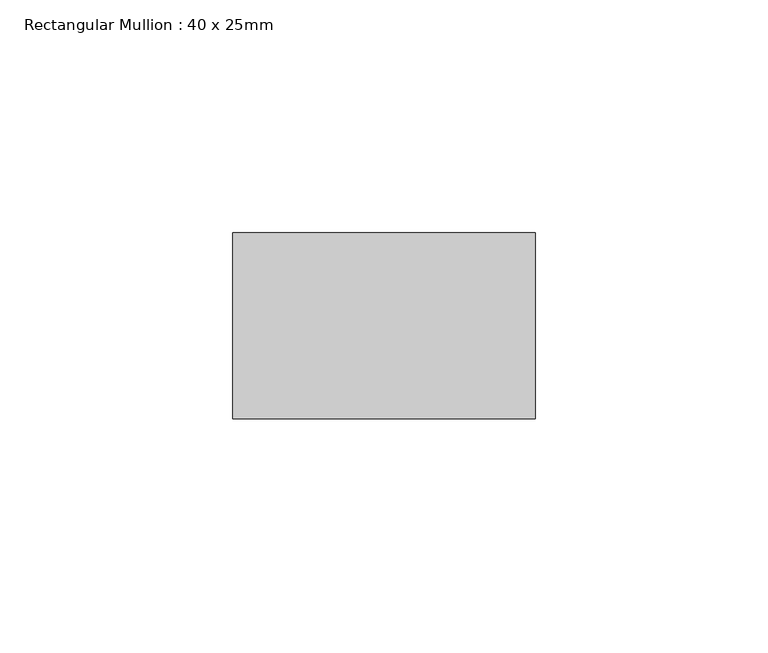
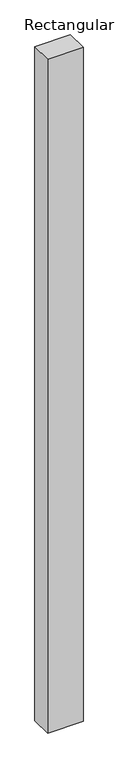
"""IFC4 building model written with IfcOpenShell, lengths in millimetres: member geometry, Rectangular Mullion : 40 x 25mm."""

import ifcopenshell
import ifcopenshell.guid

model = None  # the IFC model being written
_history = None  # IfcOwnerHistory: only IFC2X3 demands one
_inside = {}  # id of a spatial element -> (the spatial element, [elements in it])
_under = {}  # id of a project, library or spatial element -> (it, [spatial elements below it])
_declared = {}  # id of a project -> (the project, [libraries it declares])
_typed = {}  # id of a type object -> (the type object, [elements of that type])
_made_of = {}  # id of a material, layer set ... -> (it, [elements and type objects made of it])


def new_model(schema):
    """Start an empty IFC model of exactly this schema.

    Asked for "IFC4X3", IfcOpenShell would pick the latest addendum, in which some entities
    have other attributes; the version numbers below select the first issue.
    IFC2X3 requires an IfcOwnerHistory on every rooted entity: one is made here for all.
    """
    global model, _history
    if schema == "IFC4X3":
        model = ifcopenshell.file(schema_version=(4, 3, 0, 0))
    else:
        model = ifcopenshell.file(schema=schema)
    _inside.clear()
    _under.clear()
    _declared.clear()
    _typed.clear()
    _made_of.clear()
    _history = None
    if model.schema == "IFC2X3":
        org = make("IfcOrganization", Name="unknown")
        user = make(
            "IfcPersonAndOrganization",
            ThePerson=make("IfcPerson", FamilyName="unknown"),
            TheOrganization=org,
        )
        app = make(
            "IfcApplication",
            ApplicationDeveloper=org,
            Version="unknown",
            ApplicationFullName="unknown",
            ApplicationIdentifier="unknown",
        )
        _history = make(
            "IfcOwnerHistory",
            OwningUser=user,
            OwningApplication=app,
            ChangeAction="ADDED",
            CreationDate=0,
        )
    return model


def make(cls, **values):
    """One entity of the class cls with the attributes given. An attribute that is None is left unset."""
    return model.create_entity(
        cls, **{name: value for name, value in values.items() if value is not None}
    )


def rooted(cls, **values):
    """An entity with a GlobalId (a new one), such as an element, a storey or a relation."""
    return make(cls, GlobalId=ifcopenshell.guid.new(), OwnerHistory=_history, **values)


def si_unit(unit_type, name, prefix=None):
    """IfcSIUnit, for example si_unit("LENGTHUNIT", "METRE", prefix="MILLI")."""
    return make("IfcSIUnit", UnitType=unit_type, Prefix=prefix, Name=name)


def assignment(units):
    """IfcUnitAssignment: the units of a project."""
    return None if units is None else make("IfcUnitAssignment", Units=units)


def point(xyz):
    """IfcCartesianPoint."""
    return None if xyz is None else make("IfcCartesianPoint", Coordinates=xyz)


def direction(xyz):
    """IfcDirection."""
    return None if xyz is None else make("IfcDirection", DirectionRatios=xyz)


def frame(location, z_axis=None, x_axis=None):
    """IfcAxis2Placement3D, a coordinate frame: its origin and axes. An axis left out is left unset."""
    return make(
        "IfcAxis2Placement3D",
        Location=point(location),
        Axis=direction(z_axis),
        RefDirection=direction(x_axis),
    )


def origin():
    """The frame at (0, 0, 0) with its axes left unset."""
    return frame((0.0, 0.0, 0.0))


def place(relative_to, where):
    """IfcLocalPlacement: puts the frame where relative to a parent placement (None: the world)."""
    return make(
        "IfcLocalPlacement", PlacementRelTo=relative_to, RelativePlacement=where
    )


def context(
    kind, dimensions, precision=None, world=None, true_north=None, identifier=None
):
    """IfcGeometricRepresentationContext, for example the 3D "Model" context."""
    return make(
        "IfcGeometricRepresentationContext",
        ContextIdentifier=identifier,
        ContextType=kind,
        CoordinateSpaceDimension=dimensions,
        Precision=precision,
        WorldCoordinateSystem=world,
        TrueNorth=true_north,
    )


def project(units=None, contexts=None):
    """IfcProject with its units and contexts."""
    return rooted(
        "IfcProject",
        Name="project",
        RepresentationContexts=contexts,
        UnitsInContext=assignment(units),
    )


def spatial(cls, under=None, at=None, **own):
    """A site, building, storey or space (cls), placed at a placement, below another one or the project."""
    s = rooted(cls, ObjectPlacement=at, **own)
    if under is not None:
        _under.setdefault(under.id(), (under, []))[1].append(s)
    return s


def polyline(points):
    """IfcPolyline through the points."""
    return make("IfcPolyline", Points=[point(p) for p in points])


def outline(outer, holes=None, kind="AREA"):
    """IfcArbitraryClosedProfileDef: a profile drawn as a closed curve; with holes, ...WithVoids."""
    if holes is None:
        return make("IfcArbitraryClosedProfileDef", ProfileType=kind, OuterCurve=outer)
    return make(
        "IfcArbitraryProfileDefWithVoids",
        ProfileType=kind,
        OuterCurve=outer,
        InnerCurves=holes,
    )


def extrude(swept, where, along, depth):
    """IfcExtrudedAreaSolid: the profile swept, set in the frame where, extruded along a direction by depth."""
    return make(
        "IfcExtrudedAreaSolid",
        SweptArea=swept,
        Position=where,
        ExtrudedDirection=direction(along),
        Depth=depth,
    )


def shape(context_of_items, identifier, shape_type, items):
    """IfcShapeRepresentation: the items that make up one representation, for example the "Body"."""
    return make(
        "IfcShapeRepresentation",
        ContextOfItems=context_of_items,
        RepresentationIdentifier=identifier,
        RepresentationType=shape_type,
        Items=items,
    )


def source(mapping_origin, context_of_items, identifier, shape_type, items):
    """IfcRepresentationMap: a shape defined once, which mapped items show again and again."""
    return make(
        "IfcRepresentationMap",
        MappingOrigin=mapping_origin,
        MappedRepresentation=shape(context_of_items, identifier, shape_type, items),
    )


def transform(
    local_origin,
    x_axis=None,
    y_axis=None,
    z_axis=None,
    scale=None,
    scale2=None,
    scale3=None,
    uniform=True,
):
    """IfcCartesianTransformationOperator3D, or its non-uniform kind. x_axis, y_axis, z_axis: its Axis1, 2, 3."""
    if uniform:
        return make(
            "IfcCartesianTransformationOperator3D",
            Axis1=direction(x_axis),
            Axis2=direction(y_axis),
            LocalOrigin=point(local_origin),
            Scale=scale,
            Axis3=direction(z_axis),
        )
    return make(
        "IfcCartesianTransformationOperator3DnonUniform",
        Axis1=direction(x_axis),
        Axis2=direction(y_axis),
        LocalOrigin=point(local_origin),
        Scale=scale,
        Axis3=direction(z_axis),
        Scale2=scale2,
        Scale3=scale3,
    )


def mapped(mapping_source, mapping_target):
    """IfcMappedItem: shows the shape of a source again, moved by a transform."""
    return make(
        "IfcMappedItem", MappingSource=mapping_source, MappingTarget=mapping_target
    )


def made_of(thing, what):
    """Note that an element or type object is made of a material, layer set ...; save() writes the relation."""
    if what is not None:
        _made_of.setdefault(what.id(), (what, []))[1].append(thing)
    return thing


def element(
    cls,
    number,
    at=None,
    inside=None,
    cuts=None,
    type_object=None,
    material=None,
    context=None,
    identifier="Body",
    shape_type=None,
    held_by="IfcProductDefinitionShape",
    body=None,
    shapes=None,
    **own,
):
    """One element of the class cls, such as IfcWall. Its Tag is "e" and its number.

    at: its placement. inside: the storey or other place that contains it. cuts: it is an
    opening in that element (IfcRelVoidsElement). A single representation is given by context,
    identifier, shape_type and body (its items); several are given by shapes. held_by: the class
    of the entity that holds the representations. save() writes the other relations.
    """
    e = rooted(cls, Tag="e%d" % number, ObjectPlacement=at, **own)
    if body is not None:
        shapes = [shape(context, identifier, shape_type, body)]
    if shapes is not None:
        e.Representation = make(held_by, Representations=shapes)
    if inside is not None:
        _inside.setdefault(inside.id(), (inside, []))[1].append(e)
    if cuts is not None:
        rooted(
            "IfcRelVoidsElement", RelatingBuildingElement=cuts, RelatedOpeningElement=e
        )
    if type_object is not None:
        _typed.setdefault(type_object.id(), (type_object, []))[1].append(e)
    return made_of(e, material)


def aggregate(whole, parts):
    """IfcRelAggregates: a whole, such as a stair, and the parts it consists of."""
    return rooted("IfcRelAggregates", RelatingObject=whole, RelatedObjects=parts)


def save(model, path):
    """Write the relations noted so far, then the file.

    IfcRelAggregates (storeys below a building ...), IfcRelContainedInSpatialStructure (elements
    in a storey), IfcRelDefinesByType, IfcRelAssociatesMaterial and IfcRelDeclares: one each for
    every whole, place, type object, material and project.
    """
    for whole, parts in _under.values():
        aggregate(whole, parts)
    for where, things in _inside.values():
        rooted(
            "IfcRelContainedInSpatialStructure",
            RelatedElements=things,
            RelatingStructure=where,
        )
    for kind, things in _typed.values():
        rooted("IfcRelDefinesByType", RelatedObjects=things, RelatingType=kind)
    for what, things in _made_of.values():
        rooted("IfcRelAssociatesMaterial", RelatedObjects=things, RelatingMaterial=what)
    for by, libraries in _declared.values():
        rooted("IfcRelDeclares", RelatingContext=by, RelatedDefinitions=libraries)
    model.write(path)


def rectangular_mullion_40_x_25mm_d9006a2b(model_context):
    return source(origin(), model_context, "Body", "SweptSolid", [
        extrude(outline(polyline([(40.0, -20.0), (40.0, -60.0), (-25.0, -60.0), (-25.0, -20.0), (40.0, -20.0)])), frame((0.0, 0.0, -1305.0), z_axis=(0.0, 0.0, 1.0), x_axis=(1.0, 0.0, 0.0)), (0.0, 0.0, 1.0), 1305.0),
    ])


if __name__ == "__main__":
    model = new_model("IFC4")
    model_context = context("Model", 3, world=origin())
    ifc_project = project(units=[si_unit("LENGTHUNIT", "METRE", prefix="MILLI")], contexts=[model_context])
    site = spatial("IfcSite", under=ifc_project)
    building = spatial("IfcBuilding", under=site)
    placement = place(None, origin())
    rectangular_mullion_40_x_25mm_shape = rectangular_mullion_40_x_25mm_d9006a2b(model_context)
    element("IfcMember", 1, ObjectType="Rectangular Mullion : 40 x 25mm", at=placement, inside=building, context=model_context, shape_type="MappedRepresentation", body=[
        mapped(rectangular_mullion_40_x_25mm_shape, transform((0.0, 0.0, 0.0), x_axis=(1.0, 0.0, 0.0), y_axis=(0.0, 1.0, 0.0), z_axis=(0.0, 0.0, 1.0))),
    ])
    save(model, "model.ifc")
